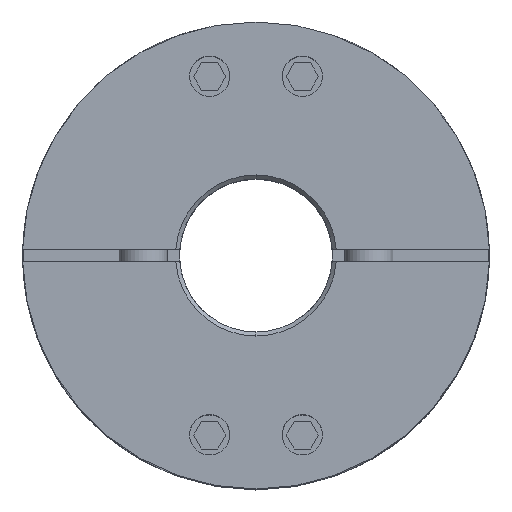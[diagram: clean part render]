
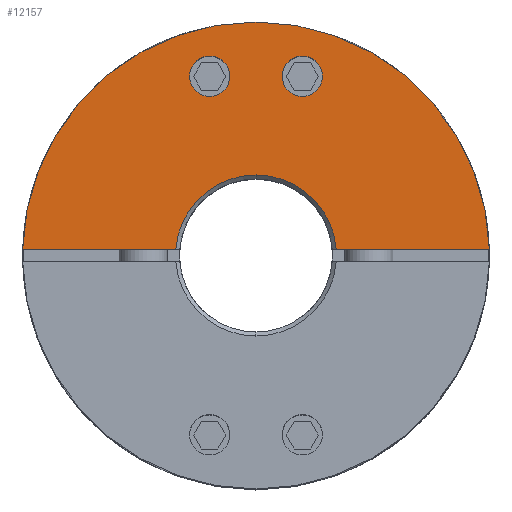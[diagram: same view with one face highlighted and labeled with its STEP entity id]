
A CAD part, top view. The second image highlights one B-rep face of the part: STEP entity #12157.
In plain terms, the highlighted planar face has unit normal (0, 0, 1).
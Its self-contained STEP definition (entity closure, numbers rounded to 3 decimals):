
#4729=CARTESIAN_POINT('',(5.759,24.767,35.75));
#4730=VERTEX_POINT('',#4729);
#4739=CARTESIAN_POINT('',(5.759,19.767,35.75));
#4740=VERTEX_POINT('',#4739);
#4741=CARTESIAN_POINT('',(5.759,22.267,35.75));
#4742=DIRECTION('',(0.0,0.0,-1.0));
#4743=DIRECTION('',(0.0,1.0,0.0));
#4744=AXIS2_PLACEMENT_3D('',#4741,#4742,#4743);
#4745=CIRCLE('',#4744,2.5);
#4746=EDGE_CURVE('',#4740,#4730,#4745,.T.);
#4771=CARTESIAN_POINT('',(-5.759,24.767,35.75));
#4772=VERTEX_POINT('',#4771);
#4781=CARTESIAN_POINT('',(-5.759,19.767,35.75));
#4782=VERTEX_POINT('',#4781);
#4783=CARTESIAN_POINT('',(-5.759,22.267,35.75));
#4784=DIRECTION('',(0.0,0.0,-1.0));
#4785=DIRECTION('',(0.0,1.0,0.0));
#4786=AXIS2_PLACEMENT_3D('',#4783,#4784,#4785);
#4787=CIRCLE('',#4786,2.5);
#4788=EDGE_CURVE('',#4782,#4772,#4787,.T.);
#5025=CARTESIAN_POINT('',(0.,29.0,35.75));
#5026=VERTEX_POINT('',#5025);
#5174=CARTESIAN_POINT('',(-28.99,0.75,35.75));
#5175=VERTEX_POINT('',#5174);
#5182=CARTESIAN_POINT('',(0.,0.0,35.75));
#5183=DIRECTION('',(0.0,0.0,-1.0));
#5184=DIRECTION('',(0.0,1.0,0.0));
#5185=AXIS2_PLACEMENT_3D('',#5182,#5183,#5184);
#5186=CIRCLE('',#5185,29.0);
#5187=EDGE_CURVE('',#5175,#5026,#5186,.T.);
#5359=CARTESIAN_POINT('',(0.,10.0,35.75));
#5360=VERTEX_POINT('',#5359);
#5376=CARTESIAN_POINT('',(9.972,0.75,35.75));
#5377=VERTEX_POINT('',#5376);
#5391=CARTESIAN_POINT('',(0.,0.0,35.75));
#5392=DIRECTION('',(0.0,0.0,1.0));
#5393=DIRECTION('',(0.0,1.0,0.0));
#5394=AXIS2_PLACEMENT_3D('',#5391,#5392,#5393);
#5395=CIRCLE('',#5394,10.0);
#5396=EDGE_CURVE('',#5377,#5360,#5395,.T.);
#11663=CARTESIAN_POINT('',(-9.972,0.75,35.75));
#11664=VERTEX_POINT('',#11663);
#11665=CARTESIAN_POINT('',(0.,0.0,35.75));
#11666=DIRECTION('',(0.0,0.0,1.0));
#11667=DIRECTION('',(0.0,1.0,0.0));
#11668=AXIS2_PLACEMENT_3D('',#11665,#11666,#11667);
#11669=CIRCLE('',#11668,10.0);
#11670=EDGE_CURVE('',#5360,#11664,#11669,.T.);
#11695=CARTESIAN_POINT('',(-28.99,0.75,35.75));
#11696=DIRECTION('',(1.0,0.0,0.0));
#11697=VECTOR('',#11696,19.018);
#11698=LINE('',#11695,#11697);
#11699=EDGE_CURVE('',#5175,#11664,#11698,.T.);
#11731=CARTESIAN_POINT('',(28.99,0.75,35.75));
#11732=VERTEX_POINT('',#11731);
#11739=CARTESIAN_POINT('',(9.972,0.75,35.75));
#11740=DIRECTION('',(1.0,0.0,0.0));
#11741=VECTOR('',#11740,19.018);
#11742=LINE('',#11739,#11741);
#11743=EDGE_CURVE('',#5377,#11732,#11742,.T.);
#11858=CARTESIAN_POINT('',(0.,0.0,35.75));
#11859=DIRECTION('',(0.0,0.0,-1.0));
#11860=DIRECTION('',(0.0,1.0,0.0));
#11861=AXIS2_PLACEMENT_3D('',#11858,#11859,#11860);
#11862=CIRCLE('',#11861,29.0);
#11863=EDGE_CURVE('',#5026,#11732,#11862,.T.);
#12096=CARTESIAN_POINT('',(-5.759,22.267,35.75));
#12097=DIRECTION('',(0.0,0.0,-1.0));
#12098=DIRECTION('',(0.0,1.0,0.0));
#12099=AXIS2_PLACEMENT_3D('',#12096,#12097,#12098);
#12100=CIRCLE('',#12099,2.5);
#12101=EDGE_CURVE('',#4772,#4782,#12100,.T.);
#12114=CARTESIAN_POINT('',(5.759,22.267,35.75));
#12115=DIRECTION('',(0.0,0.0,-1.0));
#12116=DIRECTION('',(0.0,1.0,0.0));
#12117=AXIS2_PLACEMENT_3D('',#12114,#12115,#12116);
#12118=CIRCLE('',#12117,2.5);
#12119=EDGE_CURVE('',#4730,#4740,#12118,.T.);
#12136=CARTESIAN_POINT('',(0.,2.636,35.75));
#12137=DIRECTION('',(0.0,0.0,1.0));
#12138=DIRECTION('',(0.0,1.0,0.0));
#12139=AXIS2_PLACEMENT_3D('',#12136,#12137,#12138);
#12140=PLANE('',#12139);
#12141=ORIENTED_EDGE('',*,*,#5396,.F.);
#12142=ORIENTED_EDGE('',*,*,#11743,.T.);
#12143=ORIENTED_EDGE('',*,*,#11863,.F.);
#12144=ORIENTED_EDGE('',*,*,#5187,.F.);
#12145=ORIENTED_EDGE('',*,*,#11699,.T.);
#12146=ORIENTED_EDGE('',*,*,#11670,.F.);
#12147=EDGE_LOOP('',(#12141,#12142,#12143,#12144,#12145,#12146));
#12148=FACE_OUTER_BOUND('',#12147,.T.);
#12149=ORIENTED_EDGE('',*,*,#12101,.T.);
#12150=ORIENTED_EDGE('',*,*,#4788,.T.);
#12151=EDGE_LOOP('',(#12149,#12150));
#12152=FACE_BOUND('',#12151,.T.);
#12153=ORIENTED_EDGE('',*,*,#12119,.T.);
#12154=ORIENTED_EDGE('',*,*,#4746,.T.);
#12155=EDGE_LOOP('',(#12153,#12154));
#12156=FACE_BOUND('',#12155,.T.);
#12157=ADVANCED_FACE('',(#12148,#12152,#12156),#12140,.T.);
